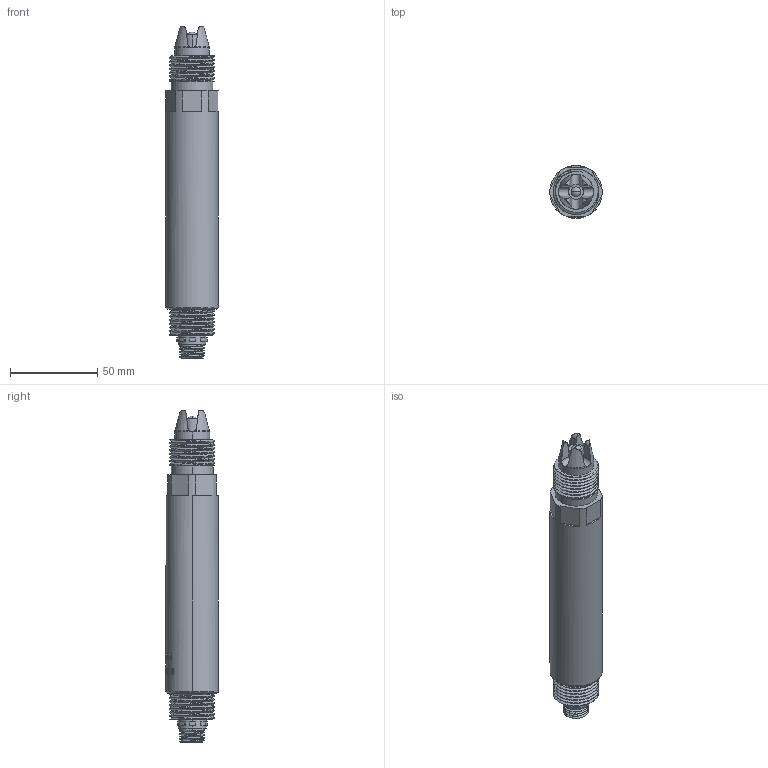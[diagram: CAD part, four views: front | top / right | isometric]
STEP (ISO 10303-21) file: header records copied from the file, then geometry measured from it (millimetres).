
FILE_DESCRIPTION((''),'2;1');
FILE_NAME('ASM0002_ASM','2025-12-26T11:41:59',('28740194'),(''),'CREO PARAMETRIC BY PTC INC, 2024063','CREO PARAMETRIC BY PTC INC, 2024063','');
FILE_SCHEMA(('CONFIG_CONTROL_DESIGN'));
Length unit declared in the file: millimetre
Products named in the file (6): KWS-750ZZ; 222000; 0001; 0002; 260_ASM; ASM0002_ASM
Assembly tree (6 placements, depth 3):
  ASM0002_ASM
    KWS-750ZZ
    222000
    0001
    260_ASM
      0002
      222000
Bounding box: 30 x 30.19 x 190 mm (x, y, z)
Volume: 108787.7 mm3; surface area: 22915.9 mm2
Topology: 5 solids, 5 shells, 509 faces, 1399 edges, 927 vertices
Faces by surface type: bspline 331, cylinder 84, plane 82, torus 6, cone 4, sphere 2
Entity records: 23209 total; most frequent: CARTESIAN_POINT 13180, ORIENTED_EDGE 2664, EDGE_CURVE 1332, DIRECTION 1041, VERTEX_POINT 885, B_SPLINE_CURVE_WITH_KNOTS 858, EDGE_LOOP 513, FACE_OUTER_BOUND 484
